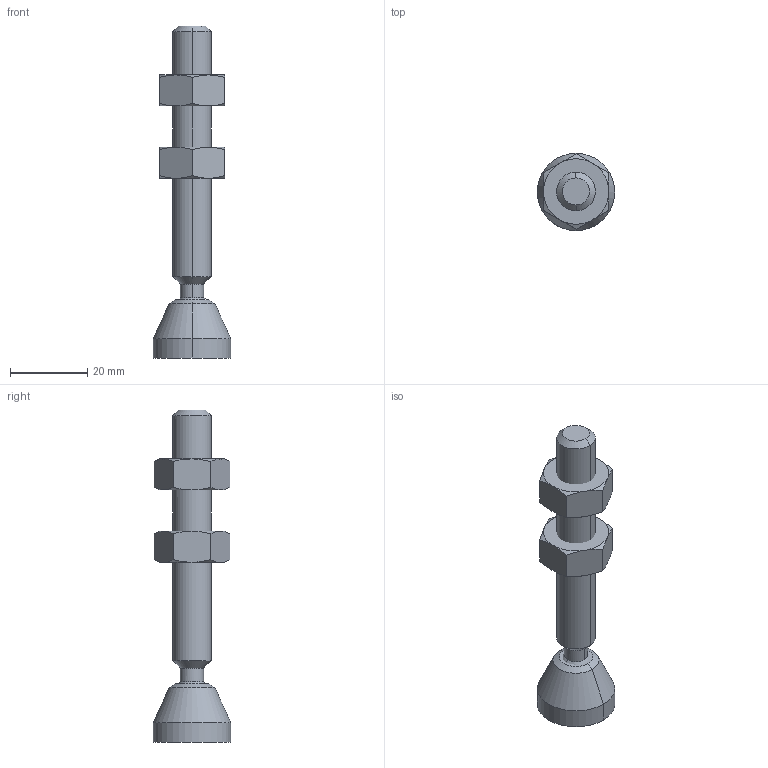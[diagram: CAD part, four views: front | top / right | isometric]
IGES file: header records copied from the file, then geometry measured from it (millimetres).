
Start section: 3D InterOp IGES (Version 17 0 1), Spatial Corp. Copyright (c) 1999-2007.
Global section: file name: NoName; native system: Spatial Corp.; preprocessor: 3D InterOp ACIS/IGES; author: Noname; organization: Noname; date: 20120609.214415; units: inch
Bounding box: 20 x 20 x 85.74 mm (x, y, z)
Volume: 12115.4 mm3; surface area: 5758.1 mm2
Topology: 4 solids, 4 shells, 63 faces, 278 edges, 221 vertices
Faces by surface type: bspline 63
